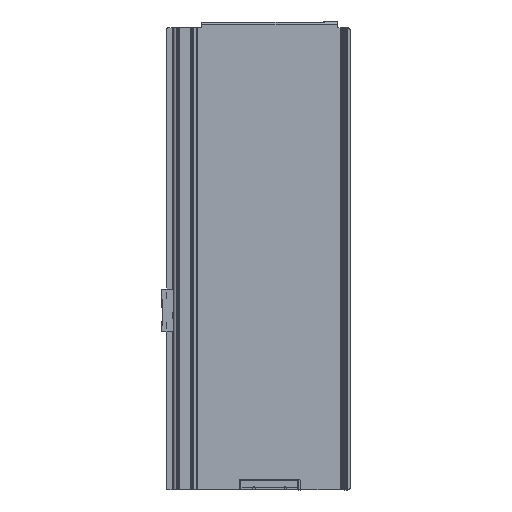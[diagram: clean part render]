
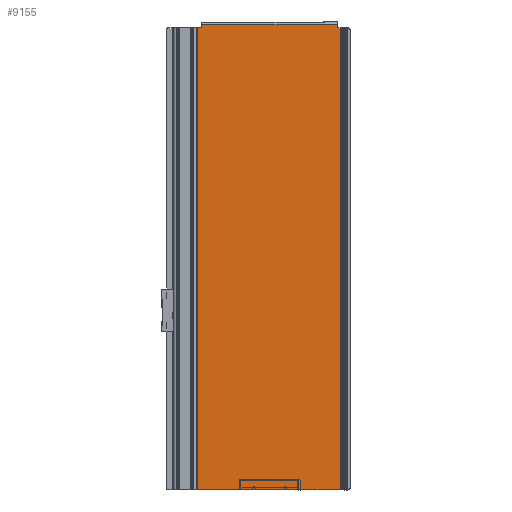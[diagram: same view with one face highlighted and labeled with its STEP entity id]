
A CAD part, left-side view. The second image highlights one B-rep face of the part: STEP entity #9155.
In plain terms, the highlighted planar face has unit normal (-1, 0, 0) as drawn and (1, 0, 0) by its records, which use the part's own axes.
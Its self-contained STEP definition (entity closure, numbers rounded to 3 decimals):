
#271=PLANE('',#9974);
#758=LINE('',#14781,#1502);
#763=LINE('',#14796,#1507);
#768=LINE('',#14805,#1512);
#769=LINE('',#14808,#1513);
#806=LINE('',#14933,#1550);
#824=LINE('',#14981,#1568);
#825=LINE('',#14984,#1569);
#826=LINE('',#14985,#1570);
#1502=VECTOR('',#11856,10.);
#1507=VECTOR('',#11871,10.);
#1512=VECTOR('',#11878,10.);
#1513=VECTOR('',#11881,10.);
#1550=VECTOR('',#11988,10.);
#1568=VECTOR('',#12042,10.);
#1569=VECTOR('',#12045,10.);
#1570=VECTOR('',#12046,10.);
#2243=FACE_OUTER_BOUND('',#2805,.T.);
#2805=EDGE_LOOP('',(#7184,#7185,#7186,#7187,#7188,#7189,#7190,#7191));
#3986=VERTEX_POINT('',#14777);
#3987=VERTEX_POINT('',#14779);
#3992=VERTEX_POINT('',#14795);
#3995=VERTEX_POINT('',#14803);
#3996=VERTEX_POINT('',#14807);
#4049=VERTEX_POINT('',#14931);
#4061=VERTEX_POINT('',#14979);
#4062=VERTEX_POINT('',#14983);
#5063=EDGE_CURVE('',#3986,#3987,#758,.T.);
#5070=EDGE_CURVE('',#3992,#3986,#763,.T.);
#5075=EDGE_CURVE('',#3987,#3995,#768,.T.);
#5076=EDGE_CURVE('',#3996,#3992,#769,.T.);
#5139=EDGE_CURVE('',#3995,#4049,#806,.T.);
#5163=EDGE_CURVE('',#4061,#4049,#824,.T.);
#5164=EDGE_CURVE('',#4062,#4061,#825,.T.);
#5165=EDGE_CURVE('',#4062,#3996,#826,.T.);
#7184=ORIENTED_EDGE('',*,*,#5164,.F.);
#7185=ORIENTED_EDGE('',*,*,#5165,.T.);
#7186=ORIENTED_EDGE('',*,*,#5076,.T.);
#7187=ORIENTED_EDGE('',*,*,#5070,.T.);
#7188=ORIENTED_EDGE('',*,*,#5063,.T.);
#7189=ORIENTED_EDGE('',*,*,#5075,.T.);
#7190=ORIENTED_EDGE('',*,*,#5139,.T.);
#7191=ORIENTED_EDGE('',*,*,#5163,.F.);
#9155=ADVANCED_FACE('',(#2243),#271,.F.);
#9974=AXIS2_PLACEMENT_3D('',#14982,#12043,#12044);
#11856=DIRECTION('',(0.,-1.,0.));
#11871=DIRECTION('',(0.,0.,1.));
#11878=DIRECTION('',(0.,0.,-1.));
#11881=DIRECTION('',(0.,-1.,0.));
#11988=DIRECTION('',(0.,-1.,0.));
#12042=DIRECTION('',(0.,0.,1.));
#12043=DIRECTION('center_axis',(-1.,0.,0.));
#12044=DIRECTION('ref_axis',(0.,-1.,0.));
#12045=DIRECTION('',(0.,-1.,0.));
#12046=DIRECTION('',(0.,0.,1.));
#14777=CARTESIAN_POINT('',(4.9,145.,395.6));
#14779=CARTESIAN_POINT('',(4.9,29.5,395.6));
#14781=CARTESIAN_POINT('',(4.9,145.,395.6));
#14795=CARTESIAN_POINT('',(4.9,145.,393.));
#14796=CARTESIAN_POINT('',(4.9,145.,393.));
#14803=CARTESIAN_POINT('',(4.9,29.5,393.));
#14805=CARTESIAN_POINT('',(4.9,29.5,393.));
#14807=CARTESIAN_POINT('',(4.9,147.342,393.));
#14808=CARTESIAN_POINT('',(4.9,147.342,393.));
#14931=CARTESIAN_POINT('',(4.9,25.9,393.));
#14933=CARTESIAN_POINT('',(4.9,147.342,393.));
#14979=CARTESIAN_POINT('',(4.9,25.9,0.));
#14981=CARTESIAN_POINT('',(4.9,25.9,0.));
#14982=CARTESIAN_POINT('Origin',(4.9,147.342,0.));
#14983=CARTESIAN_POINT('',(4.9,147.342,0.));
#14984=CARTESIAN_POINT('',(4.9,147.342,0.));
#14985=CARTESIAN_POINT('',(4.9,147.342,0.));
